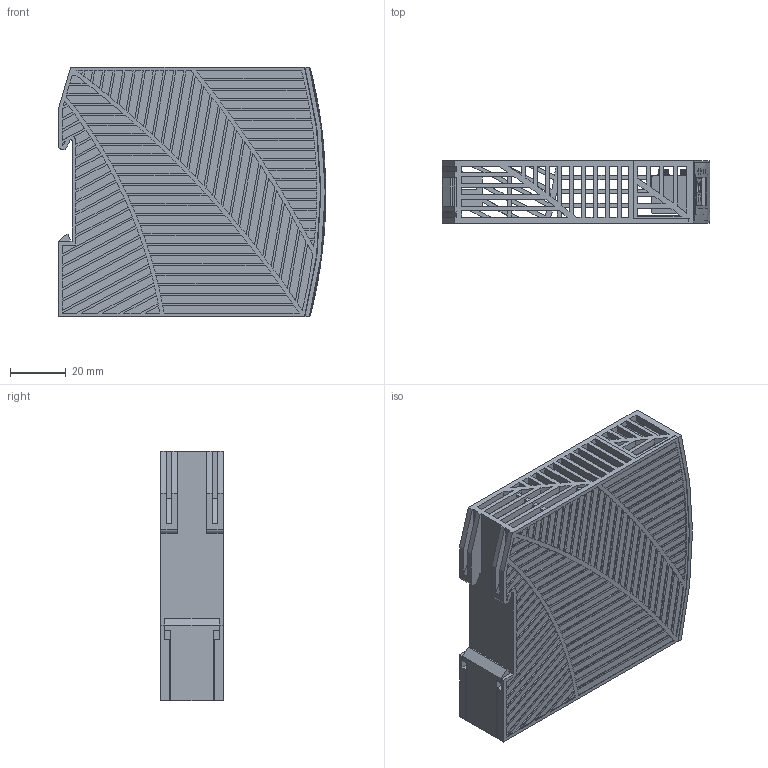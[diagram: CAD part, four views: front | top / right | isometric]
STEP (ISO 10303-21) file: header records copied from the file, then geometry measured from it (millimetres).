
FILE_DESCRIPTION(/* description */ (''),/* implementation_level */ '2;1');
FILE_NAME(/* name */ 'L:\Technische-Dokumentation\Daten von KO\Internet\PIM36.241 (AN463.00)\md3_pim36_241.stp',/* time_stamp */ '2020-05-11T12:25:37+02:00',/* author */ ('rahns'),/* organization */ (''),/* preprocessor_version */ 'ST-DEVELOPER v18',/* originating_system */ 'Autodesk Inventor 2020',/* authorisation */ '');
FILE_SCHEMA (('AUTOMOTIVE_DESIGN { 1 0 10303 214 3 1 1 }'));
Products named in the file (9): 463.00; HOUSING BODY 463.00; HOUSING COVER 463.00; SLIDER 463.00; FRONTFOIL 463.00; MKT_POTI; MKT_LED GN; MKT_XT-LP2BK-P4; MKT_XT-LP4BK-P3
Assembly tree (8 placements, depth 2):
  463.00
    HOUSING BODY 463.00
    HOUSING COVER 463.00
    SLIDER 463.00
    FRONTFOIL 463.00
    MKT_POTI
    MKT_LED GN
    MKT_XT-LP2BK-P4
    MKT_XT-LP4BK-P3
Bounding box: 96.45 x 22.5 x 90 mm (x, y, z)
Volume: 41511.1 mm3; surface area: 56470.4 mm2
Topology: 8 solids, 8 shells, 1511 faces, 4001 edges, 2676 vertices
Faces by surface type: plane 1068, cylinder 274, bspline 160, cone 9
Full cylindrical faces by diameter (mm): 0.5 x3, 1.1 x12, 3.8 x1, 4 x6, 4.6 x1
Entity records: 54493 total; most frequent: CARTESIAN_POINT 16315, ORIENTED_EDGE 8002, DIRECTION 7165, EDGE_CURVE 4001, LINE 2875, VECTOR 2875, VERTEX_POINT 2676, AXIS2_PLACEMENT_3D 2145
